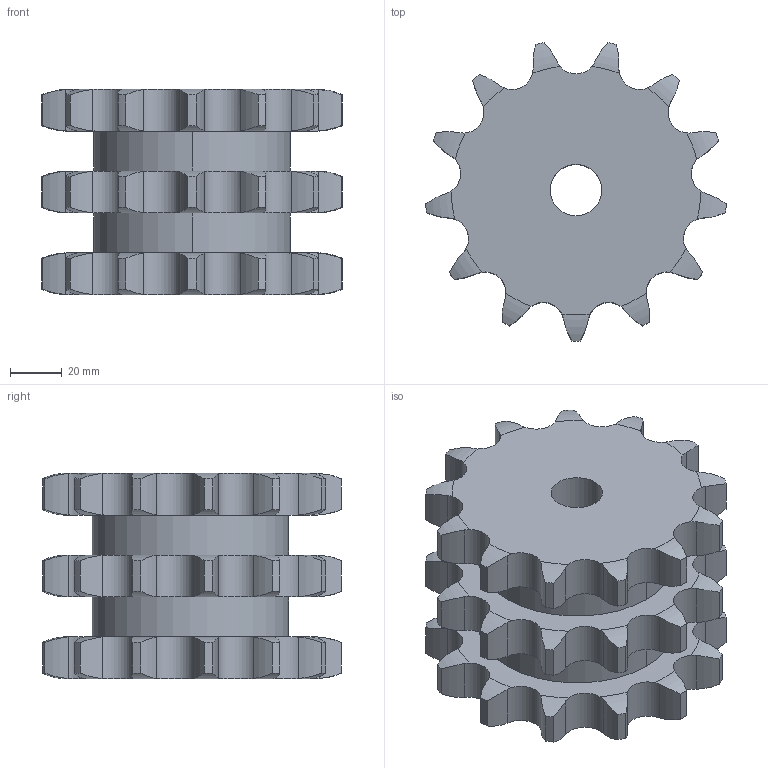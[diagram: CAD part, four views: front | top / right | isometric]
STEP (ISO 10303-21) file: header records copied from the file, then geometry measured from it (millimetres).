
FILE_DESCRIPTION((''),'2;1');
FILE_NAME('500-503-0013_PRT','2021-02-12T',('Brieden'),('Brieden'),'PRO/ENGINEER BY PARAMETRIC TECHNOLOGY CORPORATION, 2010160','PRO/ENGINEER BY PARAMETRIC TECHNOLOGY CORPORATION, 2010160','');
FILE_SCHEMA(('AUTOMOTIVE_DESIGN { 1 0 10303 214 1 1 1 1 }'));
Length unit declared in the file: millimetre
Products named in the file (1): 500-503-0013_PRT
Bounding box: 116.51 x 115.68 x 79.6 mm (x, y, z)
Volume: 500919.4 mm3; surface area: 64938 mm2
Topology: 1 solids, 1 shells, 246 faces, 720 edges, 480 vertices
Faces by surface type: cylinder 162, torus 78, plane 6
Entity records: 11713 total; most frequent: CARTESIAN_POINT 3322, ORIENTED_EDGE 1440, DIRECTION 1146, PRESENTATION_STYLE_ASSIGNMENT 721, STYLED_ITEM 721, CURVE_STYLE 720, EDGE_CURVE 720, AXIS2_PLACEMENT_3D 492
